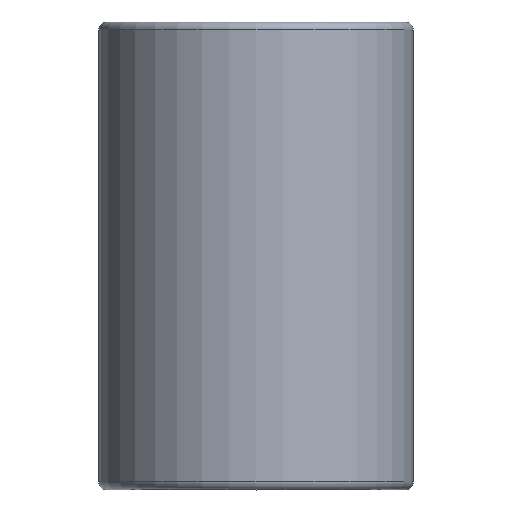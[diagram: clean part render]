
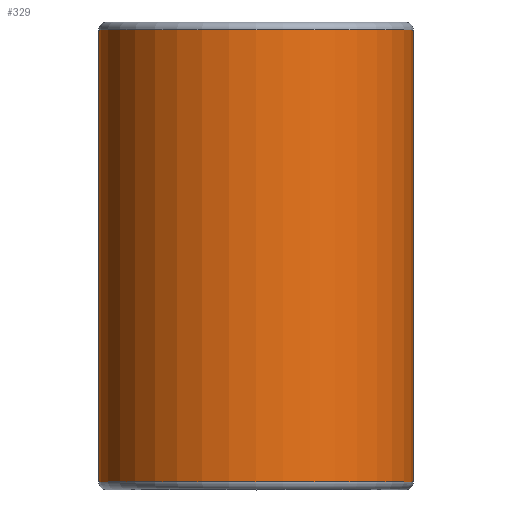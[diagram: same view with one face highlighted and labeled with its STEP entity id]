
A CAD part, top view. The second image highlights one B-rep face of the part: STEP entity #329.
In plain terms, the highlighted cylindrical face has radius 202 mm (diameter 404 mm), a full revolution.
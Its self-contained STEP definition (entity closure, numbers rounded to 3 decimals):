
#39=FACE_BOUND('',#113,.T.);
#75=FACE_OUTER_BOUND('',#112,.T.);
#112=EDGE_LOOP('',(#262));
#113=EDGE_LOOP('',(#263));
#164=CIRCLE('',#379,202.);
#166=CIRCLE('',#382,202.);
#194=VERTEX_POINT('',#574);
#196=VERTEX_POINT('',#579);
#224=EDGE_CURVE('',#194,#194,#164,.T.);
#226=EDGE_CURVE('',#196,#196,#166,.T.);
#262=ORIENTED_EDGE('',*,*,#226,.F.);
#263=ORIENTED_EDGE('',*,*,#224,.F.);
#308=CYLINDRICAL_SURFACE('',#381,202.);
#329=ADVANCED_FACE('',(#75,#39),#308,.T.);
#379=AXIS2_PLACEMENT_3D('',#575,#466,#467);
#381=AXIS2_PLACEMENT_3D('',#578,#470,#471);
#382=AXIS2_PLACEMENT_3D('',#580,#472,#473);
#466=DIRECTION('center_axis',(0.,1.,0.));
#467=DIRECTION('ref_axis',(1.,0.,0.));
#470=DIRECTION('center_axis',(0.,1.,0.));
#471=DIRECTION('ref_axis',(1.,0.,0.));
#472=DIRECTION('center_axis',(0.,-1.,0.));
#473=DIRECTION('ref_axis',(1.,0.,0.));
#574=CARTESIAN_POINT('',(-202.,290.,0.));
#575=CARTESIAN_POINT('Origin',(0.,290.,0.));
#578=CARTESIAN_POINT('Origin',(0.,0.,0.));
#579=CARTESIAN_POINT('',(-202.,-290.,0.));
#580=CARTESIAN_POINT('Origin',(0.,-290.,0.));
